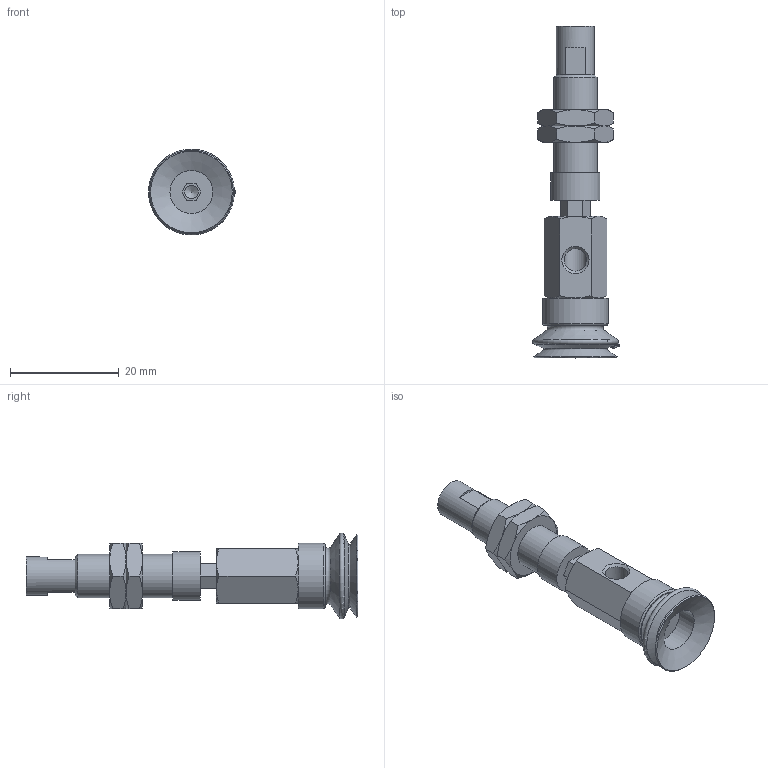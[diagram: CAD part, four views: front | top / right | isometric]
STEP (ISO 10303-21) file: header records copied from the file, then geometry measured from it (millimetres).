
FILE_DESCRIPTION(('STEP AP203'),'1');
FILE_NAME('.stp','2025-04-24T06:37:08',(' '),(' '),'Spatial InterOp 3D',' ',' ');
FILE_SCHEMA(('CONFIG_CONTROL_DESIGN'));
Length unit declared in the file: millimetre
Products named in the file (7): BNABPJYH-15-3-※; Adapter-15-NAPJ; CONNECTOR_H-15-3; NAPJH-15-3-NUT; NAPJTH-15-3-FBODY; NAPJTH-15-3-MBODY; BPJG-15-※
Assembly tree (7 placements, depth 2):
  BNABPJYH-15-3-※
    Adapter-15-NAPJ
    CONNECTOR_H-15-3
    NAPJH-15-3-NUT  x2
    NAPJTH-15-3-FBODY
    NAPJTH-15-3-MBODY
    BPJG-15-※
Bounding box: 15.99 x 61 x 15.78 mm (x, y, z)
Volume: 4269.8 mm3; surface area: 4789.8 mm2
Topology: 7 solids, 7 shells, 164 faces, 362 edges, 218 vertices
Faces by surface type: plane 72, cone 58, cylinder 15, torus 9, bspline 6, sphere 4
Full cylindrical faces by diameter (mm): 2.5 x1, 4.134 x3, 4.6 x1, 5 x2, 7 x1, 7.188 x2, 7.9 x1, 8 x2, 9 x1, 12 x1
Entity records: 4398 total; most frequent: CARTESIAN_POINT 1195, DIRECTION 592, ORIENTED_EDGE 530, EDGE_CURVE 265, AXIS2_PLACEMENT_3D 244, EDGE_LOOP 195, VERTEX_POINT 181, FACE_OUTER_BOUND 162
